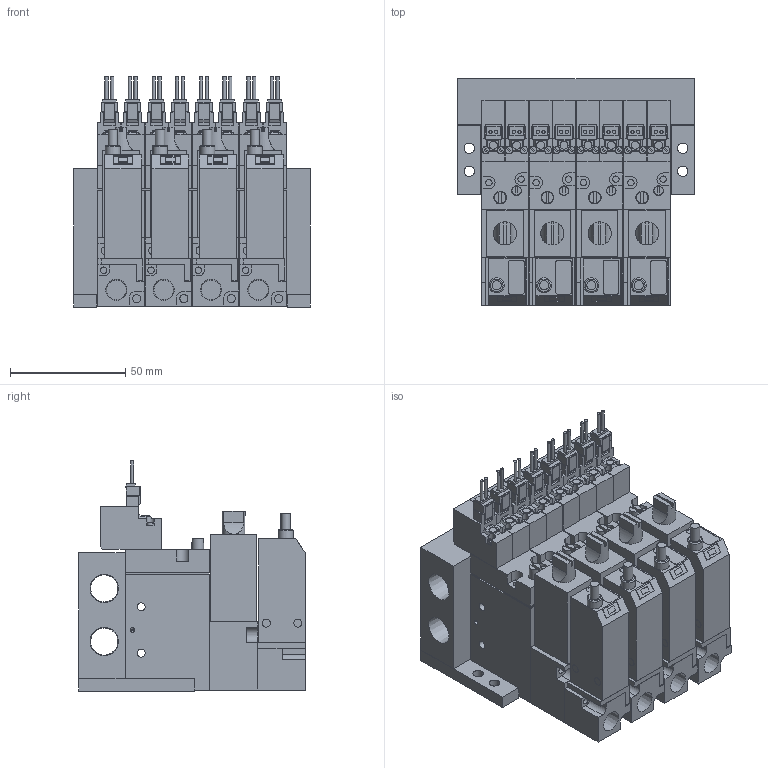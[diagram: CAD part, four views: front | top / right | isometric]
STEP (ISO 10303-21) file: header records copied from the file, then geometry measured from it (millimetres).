
FILE_DESCRIPTION(('STEP AP203'),'1');
FILE_NAME('BMPV32M2NAB25BL404.stp','2025-06-17T00:16:41',(' '),(' '),'Spatial InterOp 3D',' ',' ');
FILE_SCHEMA(('CONFIG_CONTROL_DESIGN'));
Length unit declared in the file: millimetre
Products named in the file (52): BMPV32M2NAB25BL404; Filter Assy; __; _____; MB BRACKET; MB04; Pressure sensor ABSL; ___ ___2; ___-2(Rc); ___; upper plate-A; ______; ____; VACUUM VALVE FUNCTION MPV42-A
Assembly tree (51 placements, depth 2):
  BMPV32M2NAB25BL404
    Filter Assy
    __
    _____
    Filter Assy
    __
    _____
    Filter Assy
    __
    _____
    MB BRACKET
    MB BRACKET
    MB04
    Filter Assy
    __
    _____
    Pressure sensor ABSL
    ___ ___2
    ___-2(Rc)
    ___-2(Rc)
    ___ ___2
    Pressure sensor ABSL
    ___-2(Rc)
    ___ ___2
    Pressure sensor ABSL
    ___-2(Rc)
    ___ ___2
    Pressure sensor ABSL
    ___
    upper plate-A
    ______
    ____
    VACUUM VALVE FUNCTION MPV42-A
    VACUUM VALVE FUNCTION MPV42-A
    ___
    upper plate-A
    ______
    ____
    VACUUM VALVE FUNCTION MPV42-A
    VACUUM VALVE FUNCTION MPV42-A
    ___
    upper plate-A
    ______
    ____
    VACUUM VALVE FUNCTION MPV42-A
    VACUUM VALVE FUNCTION MPV42-A
    ___
    upper plate-A
    ______
    ____
    VACUUM VALVE FUNCTION MPV42-A
    VACUUM VALVE FUNCTION MPV42-A
Bounding box: 102.5 x 98 x 99.75 mm (x, y, z)
Volume: 484127.8 mm3; surface area: 160783.6 mm2
Topology: 51 solids, 51 shells, 1519 faces, 3940 edges, 2620 vertices
Faces by surface type: plane 1213, cylinder 270, cone 32, torus 4
Full cylindrical faces by diameter (mm): 1.4 x16, 1.8 x8, 2 x8, 2.5 x12, 2.8 x16, 3 x16, 3.5 x52, 4 x8, 4.2 x4, 4.5 x4, 5 x4, 5.5 x4, 6.5 x10, 8.522 x4, 11.776 x2
Entity records: 47550 total; most frequent: CARTESIAN_POINT 8091, DIRECTION 7474, ORIENTED_EDGE 7312, EDGE_CURVE 3656, LINE 2948, VECTOR 2948, VERTEX_POINT 2568, AXIS2_PLACEMENT_3D 2263
